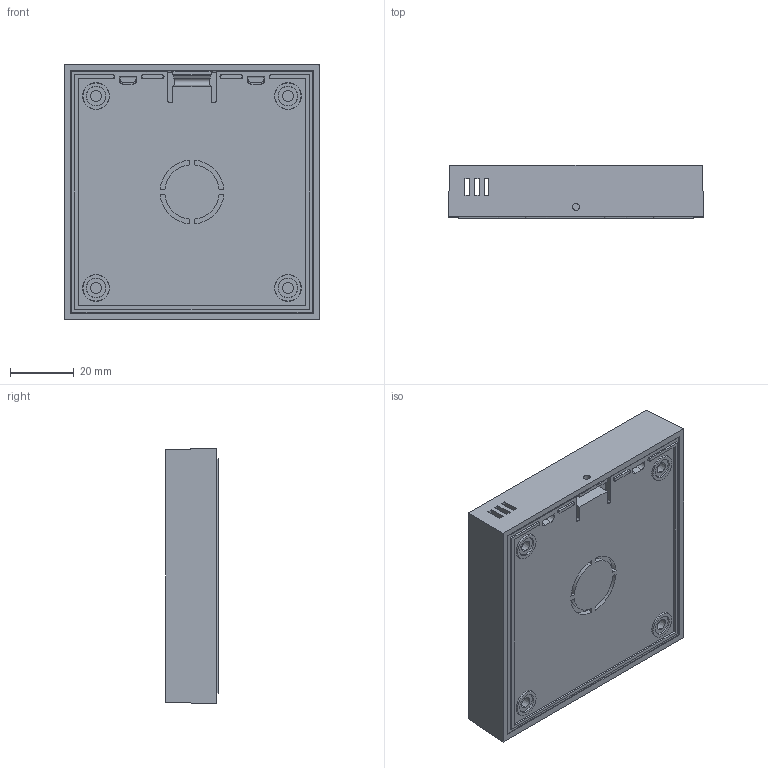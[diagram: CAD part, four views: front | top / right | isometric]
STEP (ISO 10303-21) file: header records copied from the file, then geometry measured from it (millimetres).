
FILE_DESCRIPTION (( 'STEP AP203' ), '1' );
FILE_NAME ('DM-8080.STEP', '2024-01-12T06:46:41', ( '' ), ( '' ), 'SwSTEP 2.0', 'SolidWorks 2021', '' );
FILE_SCHEMA (( 'CONFIG_CONTROL_DESIGN' ));
Length unit declared in the file: millimetre
Products named in the file (1): DM-8080
Bounding box: 80 x 16.5 x 80 mm (x, y, z)
Volume: 36994.7 mm3; surface area: 37229.9 mm2
Topology: 2 solids, 2 shells, 360 faces, 960 edges, 630 vertices
Faces by surface type: plane 236, cone 62, cylinder 38, bspline 20, torus 4
Entity records: 12557 total; most frequent: CARTESIAN_POINT 3549, ORIENTED_EDGE 1920, DIRECTION 1732, EDGE_CURVE 960, LINE 678, VECTOR 678, VERTEX_POINT 630, AXIS2_PLACEMENT_3D 527
